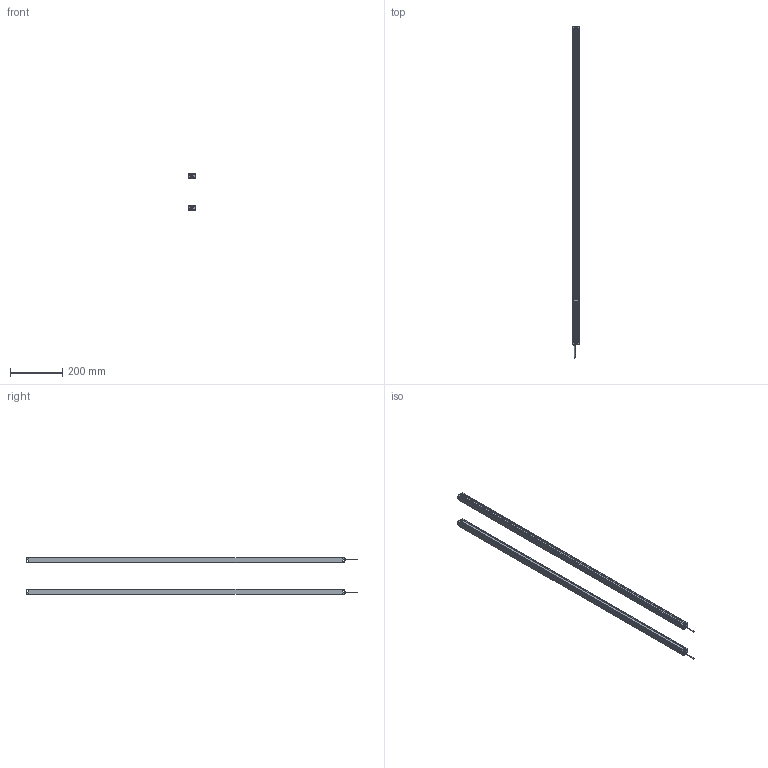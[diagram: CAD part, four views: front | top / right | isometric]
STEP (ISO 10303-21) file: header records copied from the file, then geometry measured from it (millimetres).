
FILE_DESCRIPTION (( 'STEP AP214' ), '1' );
FILE_NAME ('MTC6020.STEP', '2022-08-02T09:08:58', ( '' ), ( '' ), 'SwSTEP 2.0', 'SolidWorks 2018', '' );
FILE_SCHEMA (( 'AUTOMOTIVE_DESIGN' ));
Length unit declared in the file: millimetre
Products named in the file (5): 噩砃P02^MTC; P01^MTC; MTC6020; MTC waike^MTC; P02^MTC
Assembly tree (6 placements, depth 2):
  MTC6020
    MTC waike^MTC  x2
    P01^MTC  x2
    P02^MTC
    噩砃P02^MTC
Bounding box: 25 x 1272 x 141.4 mm (x, y, z)
Volume: 400810.3 mm3; surface area: 557148.9 mm2
Topology: 8 solids, 8 shells, 480 faces, 1396 edges, 924 vertices
Faces by surface type: plane 272, cylinder 208
Entity records: 10886 total; most frequent: DIRECTION 1881, CARTESIAN_POINT 1878, ORIENTED_EDGE 1846, EDGE_CURVE 923, AXIS2_PLACEMENT_3D 637, VERTEX_POINT 610, VECTOR 607, LINE 607
